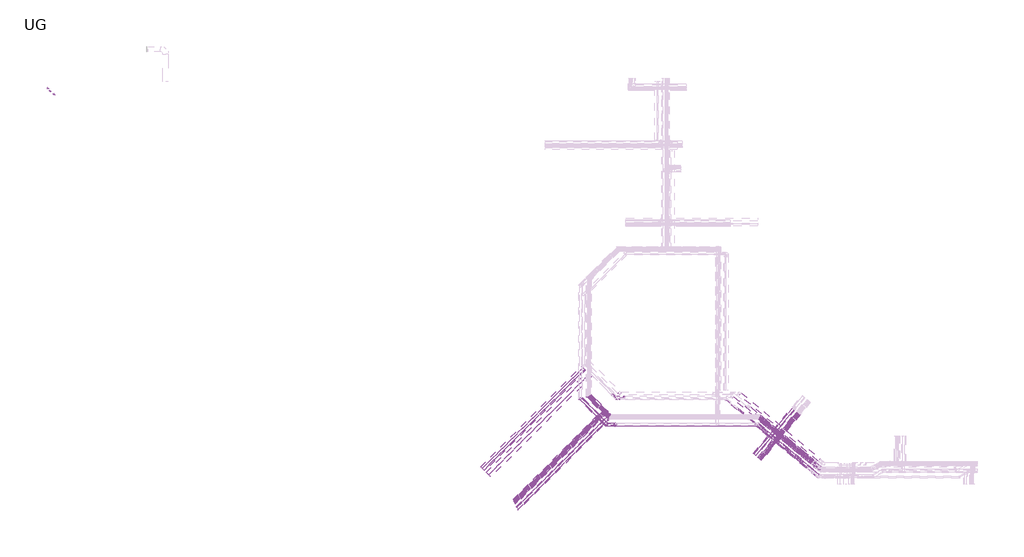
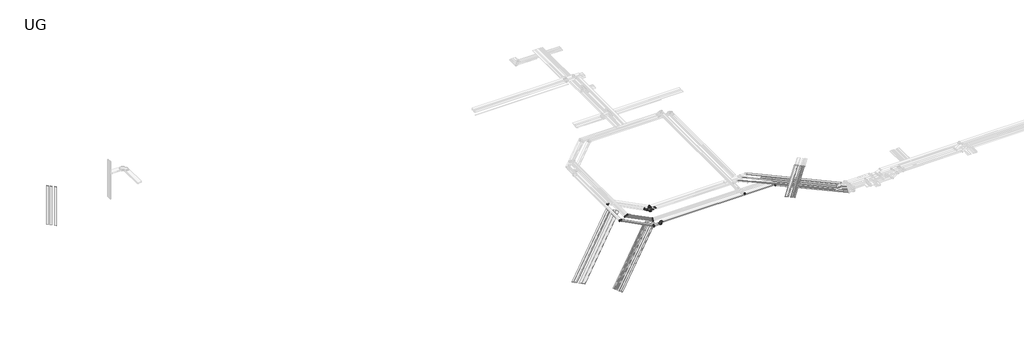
# One storey, part 1 of 14: 63 cable carrier segments, 40 cable carrier fittings.
"""IFC4 building model written with IfcOpenShell, lengths in millimetres."""

from ifc_helpers import new_model, si_unit, frame, origin, place, context, project, spatial, polyline, outline, extrude, transform, mapped, element, save
from components import cable_tray_horizontal_bend_a37de1d9, cable_tray_horizontal_bend_59db2054, cable_tray_horizontal_bend_460281a5, cable_tray_horizontal_bend_41a28480, cable_tray_horizontal_bend_607c76ad, cable_tray_horizontal_bend_0aeb7664, cable_tray_horizontal_bend_203efda3, cable_tray_horizontal_bend_d2072277, cable_tray_reducer_f8bedf25, cable_tray_reducer_d5418ca3, cable_tray_vertical_inside_bend_327bc21f, cable_tray_vertical_inside_bend_f6baaffd, cable_tray_vertical_inside_bend_ed059ede, cable_tray_vertical_outside_bend_b526f006, cable_tray_vertical_outside_bend_0dbe7b70, cable_tray_vertical_outside_bend_dc64f624, cable_tray_vertical_outside_bend_59e16c32, cable_tray_vertical_outside_bend_6efb6392, cable_tray_vertical_outside_bend_ccf5aebb

model = new_model("IFC4")

# Units and contexts
model_context = context("Model", 3, world=origin())
ifc_project = project(units=[si_unit("LENGTHUNIT", "METRE", prefix="MILLI")], contexts=[model_context])

# Site, building, storey
site = spatial("IfcSite", under=ifc_project)
building = spatial("IfcBuilding", under=site)
storey = spatial("IfcBuildingStorey", under=building, Name="UG", Elevation=7925.0)

# Cable carrier fittings
placement = place(None, origin())
cable_tray_horizontal_bend_shape = cable_tray_horizontal_bend_a37de1d9(model_context)
element("IfcCableCarrierFitting", 1, ObjectType="Cable Tray Horizontal Bend : ELEC_ELV_TKG_N2402", at=placement, inside=storey, context=model_context, shape_type="MappedRepresentation", body=[
    mapped(cable_tray_horizontal_bend_shape, transform((91092.580412, 32544.1008473, 12349.9999951), x_axis=(0.7071067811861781, -0.707106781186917, 0.0), y_axis=(0.707106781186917, 0.7071067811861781, 0.0), z_axis=(0.0, 0.0, 1.0))),
])
element("IfcCableCarrierFitting", 2, ObjectType="Cable Tray Horizontal Bend : ELEC_ELV_TKG_N2402", at=placement, inside=storey, context=model_context, shape_type="MappedRepresentation", body=[
    mapped(cable_tray_horizontal_bend_shape, transform((86156.0954238, 37480.5858354, 12349.9999951), x_axis=(0.0, -1.0, 0.0), y_axis=(1.0, 0.0, 0.0), z_axis=(0.0, 0.0, 1.0))),
])
element("IfcCableCarrierFitting", 3, ObjectType="Cable Tray Horizontal Bend : ELEC_ELV_TKG_N2402", at=placement, inside=storey, context=model_context, shape_type="MappedRepresentation", body=[
    mapped(cable_tray_horizontal_bend_shape, transform((87518.5851935, 37850.5076866, 12674.9999995), x_axis=(0.0, -1.0, 0.0), y_axis=(1.0, 0.0, 0.0), z_axis=(0.0, 0.0, 1.0))),
])
element("IfcCableCarrierFitting", 4, ObjectType="Cable Tray Horizontal Bend : ELEC_ELV_TKG_N2402", at=placement, inside=storey, context=model_context, shape_type="MappedRepresentation", body=[
    mapped(cable_tray_horizontal_bend_shape, transform((87218.5851935, 37726.2436179, 12674.9999995), x_axis=(0.0, -1.0, 0.0), y_axis=(1.0, 0.0, 0.0), z_axis=(0.0, 0.0, 1.0))),
])
element("IfcCableCarrierFitting", 5, ObjectType="Cable Tray Horizontal Bend : ELEC_ELV_TKG_N2402", at=placement, inside=storey, context=model_context, shape_type="MappedRepresentation", body=[
    mapped(cable_tray_horizontal_bend_shape, transform((87368.5851935, 37788.3756523, 12674.9999995), x_axis=(0.0, -1.0, 0.0), y_axis=(1.0, 0.0, 0.0), z_axis=(0.0, 0.0, 1.0))),
])
element("IfcCableCarrierFitting", 6, ObjectType="Cable Tray Horizontal Bend : ELEC_ELV_TKG_N2402", at=placement, inside=storey, context=model_context, shape_type="MappedRepresentation", body=[
    mapped(cable_tray_horizontal_bend_shape, transform((91475.7279563, 33469.1008552, 12674.9999995), x_axis=(0.7071067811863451, -0.70710678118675, 0.0), y_axis=(0.70710678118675, 0.7071067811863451, 0.0), z_axis=(0.0, 0.0, 1.0))),
])
element("IfcCableCarrierFitting", 7, ObjectType="Cable Tray Horizontal Bend : ELEC_ELV_TKG_N2402", at=placement, inside=storey, context=model_context, shape_type="MappedRepresentation", body=[
    mapped(cable_tray_horizontal_bend_shape, transform((91537.8599906, 33619.1008552, 12674.9999995), x_axis=(0.707106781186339, -0.7071067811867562, 0.0), y_axis=(0.7071067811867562, 0.707106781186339, 0.0), z_axis=(0.0, 0.0, 1.0))),
])
element("IfcCableCarrierFitting", 8, ObjectType="Cable Tray Horizontal Bend : ELEC_ELV_TKG_N2402", at=placement, inside=storey, context=model_context, shape_type="MappedRepresentation", body=[
    mapped(cable_tray_horizontal_bend_shape, transform((91599.992025, 33769.1008552, 12674.9999995), x_axis=(0.7071067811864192, -0.7071067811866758, 0.0), y_axis=(0.7071067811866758, 0.7071067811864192, 0.0), z_axis=(0.0, 0.0, 1.0))),
])
cable_tray_horizontal_bend_2_shape = cable_tray_horizontal_bend_59db2054(model_context)
element("IfcCableCarrierFitting", 9, ObjectType="Cable Tray Horizontal Bend : ELEC_ELV_TKG_N2402", at=placement, inside=storey, context=model_context, shape_type="MappedRepresentation", body=[
    mapped(cable_tray_horizontal_bend_2_shape, transform((85531.0954284, 37221.7023609, 12374.9999997), x_axis=(0.0, -1.0, 0.0), y_axis=(1.0, 0.0, 0.0), z_axis=(0.0, 0.0, 1.0))),
])
element("IfcCableCarrierFitting", 10, ObjectType="Cable Tray Horizontal Bend : ELEC_ELV_TKG_N2402", at=placement, inside=storey, context=model_context, shape_type="MappedRepresentation", body=[
    mapped(cable_tray_horizontal_bend_2_shape, transform((90833.6969374, 31919.1008519, 12374.9999997), x_axis=(0.707106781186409, -0.7071067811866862, 0.0), y_axis=(0.7071067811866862, 0.707106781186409, 0.0), z_axis=(0.0, 0.0, 1.0))),
])
element("IfcCableCarrierFitting", 11, ObjectType="Cable Tray Horizontal Bend : ELEC_ELV_TKG_N2402", at=placement, inside=storey, context=model_context, shape_type="MappedRepresentation", body=[
    mapped(cable_tray_horizontal_bend_2_shape, transform((91672.4793984, 33944.1008552, 12699.9999995), x_axis=(0.707106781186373, -0.707106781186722, 0.0), y_axis=(0.707106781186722, 0.707106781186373, 0.0), z_axis=(0.0, 0.0, 1.0))),
])
element("IfcCableCarrierFitting", 12, ObjectType="Cable Tray Horizontal Bend : ELEC_ELV_TKG_N2402", at=placement, inside=storey, context=model_context, shape_type="MappedRepresentation", body=[
    mapped(cable_tray_horizontal_bend_2_shape, transform((87893.5851935, 38005.8377725, 12699.9999995), x_axis=(0.0, -1.0, 0.0), y_axis=(1.0, 0.0, 0.0), z_axis=(0.0, 0.0, 1.0))),
])
element("IfcCableCarrierFitting", 13, ObjectType="Cable Tray Horizontal Bend : ELEC_ELV_TKG_N2402", at=placement, inside=storey, context=model_context, shape_type="MappedRepresentation", body=[
    mapped(cable_tray_horizontal_bend_2_shape, transform((87693.5851935, 37922.99506, 12699.9999995), x_axis=(0.0, -1.0, 0.0), y_axis=(1.0, 0.0, 0.0), z_axis=(0.0, 0.0, 1.0))),
])
element("IfcCableCarrierFitting", 14, ObjectType="Cable Tray Horizontal Bend : ELEC_ELV_TKG_N2402", at=placement, inside=storey, context=model_context, shape_type="MappedRepresentation", body=[
    mapped(cable_tray_horizontal_bend_2_shape, transform((91755.3221109, 34144.1008552, 12699.9999995), x_axis=(0.707106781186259, -0.7071067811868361, 0.0), y_axis=(0.7071067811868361, 0.707106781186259, 0.0), z_axis=(0.0, 0.0, 1.0))),
])
cable_tray_horizontal_bend_3_shape = cable_tray_horizontal_bend_460281a5(model_context)
element("IfcCableCarrierFitting", 15, ObjectType="Cable Tray Horizontal Bend : ELEC_ELV_TKG_N2402", at=placement, inside=storey, context=model_context, shape_type="MappedRepresentation", body=[
    mapped(cable_tray_horizontal_bend_3_shape, transform((90968.3163386, 32244.1008519, 12374.9999951), x_axis=(0.7071067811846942, -0.7071067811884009, 0.0), y_axis=(0.7071067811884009, 0.7071067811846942, 0.0), z_axis=(0.0, 0.0, 1.0))),
])
element("IfcCableCarrierFitting", 16, ObjectType="Cable Tray Horizontal Bend : ELEC_ELV_TKG_N2402", at=placement, inside=storey, context=model_context, shape_type="MappedRepresentation", body=[
    mapped(cable_tray_horizontal_bend_3_shape, transform((85856.0954238, 37356.3217667, 12374.9999951), x_axis=(0.0, -1.0, 0.0), y_axis=(1.0, 0.0, 0.0), z_axis=(0.0, 0.0, 1.0))),
])
cable_tray_horizontal_bend_4_shape = cable_tray_horizontal_bend_41a28480(model_context)
element("IfcCableCarrierFitting", 17, ObjectType="Cable Tray Horizontal Bend : ELEC_SUB_CT_N2402", at=placement, inside=storey, context=model_context, shape_type="MappedRepresentation", body=[
    mapped(cable_tray_horizontal_bend_4_shape, transform((86468.5851906, 43752.6744262, 12425.0000003), x_axis=(0.0, -1.0, 0.0), y_axis=(1.0, 0.0, 0.0), z_axis=(0.0, 0.0, 1.0))),
])
element("IfcCableCarrierFitting", 18, ObjectType="Cable Tray Horizontal Bend : ELEC_SUB_CT_N2402", at=placement, inside=storey, context=model_context, shape_type="MappedRepresentation", body=[
    mapped(cable_tray_horizontal_bend_4_shape, transform((93021.6378231, 37199.6217937, 12425.0000001), x_axis=(0.7071067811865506, -0.7071067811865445, 0.0), y_axis=(0.7071067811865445, 0.7071067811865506, 0.0), z_axis=(0.0, 0.0, 1.0))),
])
element("IfcCableCarrierFitting", 19, ObjectType="Cable Tray Horizontal Bend : ELEC_SUB_CT_N2402", at=placement, inside=storey, context=model_context, shape_type="MappedRepresentation", body=[
    mapped(cable_tray_horizontal_bend_4_shape, transform((92571.6378231, 37649.6217937, 12562.5), x_axis=(0.707106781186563, -0.7071067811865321, 0.0), y_axis=(0.7071067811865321, 0.707106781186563, 0.0), z_axis=(0.0, 0.0, 1.0))),
])
cable_tray_horizontal_bend_5_shape = cable_tray_horizontal_bend_607c76ad(model_context)
element("IfcCableCarrierFitting", 20, ObjectType="Cable Tray Horizontal Bend : ELEC_SUB_CT_N2402", at=placement, inside=storey, context=model_context, shape_type="MappedRepresentation", body=[
    mapped(cable_tray_horizontal_bend_5_shape, transform((93616.6125699, 37099.6217937, 12650.0), x_axis=(0.7071067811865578, -0.7071067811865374, 0.0), y_axis=(0.7071067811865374, 0.7071067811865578, 0.0), z_axis=(0.0, 0.0, 1.0))),
])
cable_tray_horizontal_bend_6_shape = cable_tray_horizontal_bend_0aeb7664(model_context)
element("IfcCableCarrierFitting", 21, ObjectType="Cable Tray Horizontal Bend : ELEC_ELV_CT_N2402", at=placement, inside=storey, context=model_context, shape_type="MappedRepresentation", body=[
    mapped(cable_tray_horizontal_bend_6_shape, transform((87043.5851935, 37653.7562445, 12649.9999995), x_axis=(0.0, -1.0, 0.0), y_axis=(1.0, 0.0, 0.0), z_axis=(0.0, 0.0, 1.0))),
])
element("IfcCableCarrierFitting", 22, ObjectType="Cable Tray Horizontal Bend : ELEC_ELV_CT_N2402", at=placement, inside=storey, context=model_context, shape_type="MappedRepresentation", body=[
    mapped(cable_tray_horizontal_bend_6_shape, transform((91403.2405828, 33294.1008552, 12649.9999995), x_axis=(0.7071067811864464, -0.7071067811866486, 0.0), y_axis=(0.7071067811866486, 0.7071067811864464, 0.0), z_axis=(0.0, 0.0, 1.0))),
])
cable_tray_horizontal_bend_7_shape = cable_tray_horizontal_bend_203efda3(model_context)
element("IfcCableCarrierFitting", 23, ObjectType="Cable Tray Horizontal Bend : ELEC_ELV_TKG_N2402", at=placement, inside=storey, context=model_context, shape_type="MappedRepresentation", body=[
    mapped(cable_tray_horizontal_bend_7_shape, transform((120257.1636121, 31919.1008519, 12699.9999954), x_axis=(-0.7660444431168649, 0.6427876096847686, 2.3482065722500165e-06), y_axis=(-0.6427876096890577, -0.7660444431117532, -2.7984836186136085e-06), z_axis=(0.0, -3.653160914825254e-06, 0.9999999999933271))),
])
cable_tray_horizontal_bend_8_shape = cable_tray_horizontal_bend_d2072277(model_context)
element("IfcCableCarrierFitting", 24, ObjectType="Cable Tray Horizontal Bend : ELEC_SUB_CT_N2402", at=placement, inside=storey, context=model_context, shape_type="MappedRepresentation", body=[
    mapped(cable_tray_horizontal_bend_8_shape, transform((93497.605213, 38350.0000005, 12649.9999997), x_axis=(0.7071067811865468, -0.7071067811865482, 0.0), y_axis=(0.7071067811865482, 0.7071067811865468, 0.0), z_axis=(0.0, 0.0, 1.0))),
])
element("IfcCableCarrierFitting", 25, ObjectType="Cable Tray Horizontal Bend : ELEC_SUB_CT_N2402", at=placement, inside=storey, context=model_context, shape_type="MappedRepresentation", body=[
    mapped(cable_tray_horizontal_bend_8_shape, transform((93497.6052131, 38350.0000005, 12424.9999994), x_axis=(0.7071067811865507, -0.7071067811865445, 0.0), y_axis=(0.7071067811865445, 0.7071067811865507, 0.0), z_axis=(0.0, 0.0, 1.0))),
])
cable_tray_reducer_shape = cable_tray_reducer_f8bedf25(model_context)
element("IfcCableCarrierFitting", 26, ObjectType="Cable Tray Reducer : ELEC_SUB_CT_N2402", at=placement, inside=storey, context=model_context, shape_type="MappedRepresentation", body=[
    mapped(cable_tray_reducer_shape, transform((92454.4805356, 37766.7790812, 12562.5), x_axis=(-0.7071067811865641, 0.707106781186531, 0.0), y_axis=(-0.707106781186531, -0.7071067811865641, 0.0), z_axis=(0.0, 0.0, 1.0))),
])
cable_tray_reducer_2_shape = cable_tray_reducer_d5418ca3(model_context)
element("IfcCableCarrierFitting", 27, ObjectType="Cable Tray Reducer : ELEC_ELV_TKG_N2402", at=placement, inside=storey, context=model_context, shape_type="MappedRepresentation", body=[
    mapped(cable_tray_reducer_2_shape, transform((120298.9862185, 31884.0075183, 12699.9998672), x_axis=(0.7660444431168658, -0.6427876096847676, -2.3482065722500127e-06), y_axis=(0.6427876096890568, 0.7660444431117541, 2.798483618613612e-06), z_axis=(0.0, -3.6531609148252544e-06, 0.9999999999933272))),
])
cable_tray_vertical_inside_bend_shape = cable_tray_vertical_inside_bend_327bc21f(model_context)
element("IfcCableCarrierFitting", 28, ObjectType="Cable Tray Vertical Inside Bend : ELEC_SUB_CT_N2402", at=placement, inside=storey, context=model_context, shape_type="MappedRepresentation", body=[
    mapped(cable_tray_vertical_inside_bend_shape, transform((94547.3233079, 37649.6217937, 12425.0000001), x_axis=(-1.0, 0.0, 0.0), y_axis=(0.0, 0.0, 1.0), z_axis=(0.0, 1.0, 0.0))),
])
cable_tray_vertical_inside_bend_2_shape = cable_tray_vertical_inside_bend_f6baaffd(model_context)
element("IfcCableCarrierFitting", 29, ObjectType="Cable Tray Vertical Inside Bend : ELEC_SUB_CT_N2402", at=placement, inside=storey, context=model_context, shape_type="MappedRepresentation", body=[
    mapped(cable_tray_vertical_inside_bend_2_shape, transform((92208.1207729, 38013.1388439, 12562.0000001), x_axis=(0.49999999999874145, -0.5000000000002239, -0.7071067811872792), y_axis=(0.5000000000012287, -0.4999999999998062, 0.7071067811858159), z_axis=(-0.7071067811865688, -0.7071067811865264, 1.4525047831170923e-12))),
])
cable_tray_vertical_inside_bend_3_shape = cable_tray_vertical_inside_bend_ed059ede(model_context)
element("IfcCableCarrierFitting", 30, ObjectType="Cable Tray Vertical Inside Bend : ELEC_SUB_CT_N2402", at=placement, inside=storey, context=model_context, shape_type="MappedRepresentation", body=[
    mapped(cable_tray_vertical_inside_bend_3_shape, transform((93467.1265061, 37249.1078575, 12650.0), x_axis=(-0.7071067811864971, 0.7071067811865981, 0.0), y_axis=(0.0, 0.0, 1.0), z_axis=(0.7071067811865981, 0.7071067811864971, 0.0))),
])
cable_tray_vertical_outside_bend_shape = cable_tray_vertical_outside_bend_b526f006(model_context)
element("IfcCableCarrierFitting", 31, ObjectType="Cable Tray Vertical Outside Bend : ELEC_ELV_TKG_N2402", at=placement, inside=storey, context=model_context, shape_type="MappedRepresentation", body=[
    mapped(cable_tray_vertical_outside_bend_shape, transform((92599.5742386, 31919.1008519, 12699.9999954), x_axis=(-1.0, 0.0, 0.0), y_axis=(0.0, 0.0, -1.0), z_axis=(0.0, -1.0, 0.0))),
])
element("IfcCableCarrierFitting", 32, ObjectType="Cable Tray Vertical Outside Bend : ELEC_ELV_TKG_N2402", at=placement, inside=storey, context=model_context, shape_type="MappedRepresentation", body=[
    mapped(cable_tray_vertical_outside_bend_shape, transform((92599.5742386, 31919.1008519, 12374.9999997), x_axis=(0.0, 0.0, -1.0), y_axis=(-1.0, 0.0, 0.0), z_axis=(0.0, 1.0, 0.0))),
])
element("IfcCableCarrierFitting", 33, ObjectType="Cable Tray Vertical Outside Bend : ELEC_ELV_TKG_N2402", at=placement, inside=storey, context=model_context, shape_type="MappedRepresentation", body=[
    mapped(cable_tray_vertical_outside_bend_shape, transform((112947.3232791, 31919.1008519, 13050.0), x_axis=(0.0, -1.0, 0.0), y_axis=(0.0, 0.0, -1.0), z_axis=(1.0, 0.0, 0.0))),
])
cable_tray_vertical_outside_bend_2_shape = cable_tray_vertical_outside_bend_0dbe7b70(model_context)
element("IfcCableCarrierFitting", 34, ObjectType="Cable Tray Vertical Outside Bend : ELEC_ELV_TKG_N2402", at=placement, inside=storey, context=model_context, shape_type="MappedRepresentation", body=[
    mapped(cable_tray_vertical_outside_bend_2_shape, transform((92668.3163386, 32544.1008473, 12349.9999951), x_axis=(0.0, 0.0, -1.0), y_axis=(-1.0, 0.0, 0.0), z_axis=(0.0, 1.0, 0.0))),
])
element("IfcCableCarrierFitting", 35, ObjectType="Cable Tray Vertical Outside Bend : ELEC_ELV_TKG_N2402", at=placement, inside=storey, context=model_context, shape_type="MappedRepresentation", body=[
    mapped(cable_tray_vertical_outside_bend_2_shape, transform((92668.3163386, 32544.1008473, 12674.9999908), x_axis=(0.0, 0.0, 1.0), y_axis=(1.0, 0.0, 0.0), z_axis=(0.0, 1.0, 0.0))),
])
cable_tray_vertical_outside_bend_3_shape = cable_tray_vertical_outside_bend_dc64f624(model_context)
element("IfcCableCarrierFitting", 36, ObjectType="Cable Tray Vertical Outside Bend : ELEC_SUB_CT_N2402", at=placement, inside=storey, context=model_context, shape_type="MappedRepresentation", body=[
    mapped(cable_tray_vertical_outside_bend_3_shape, transform((94309.166322, 37649.6217937, 12562.5), x_axis=(-0.8660254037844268, 0.0, 0.5000000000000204), y_axis=(-0.5000000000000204, 0.0, -0.8660254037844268), z_axis=(0.0, -1.0, 0.0))),
])
cable_tray_vertical_outside_bend_4_shape = cable_tray_vertical_outside_bend_59e16c32(model_context)
element("IfcCableCarrierFitting", 37, ObjectType="Cable Tray Vertical Outside Bend : ELEC_SUB_CT_N2402", at=placement, inside=storey, context=model_context, shape_type="MappedRepresentation", body=[
    mapped(cable_tray_vertical_outside_bend_4_shape, transform((92110.5400372, 38110.7195796, 12700.0), x_axis=(-0.4999999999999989, 0.4999999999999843, 0.7071067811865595), y_axis=(-0.5000000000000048, 0.5000000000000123, -0.7071067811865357), z_axis=(-0.7071067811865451, -0.7071067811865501, 0.0))),
])
cable_tray_vertical_outside_bend_5_shape = cable_tray_vertical_outside_bend_6efb6392(model_context)
element("IfcCableCarrierFitting", 38, ObjectType="Cable Tray Vertical Outside Bend : ELEC_SUB_CT_N2402", at=placement, inside=storey, context=model_context, shape_type="MappedRepresentation", body=[
    mapped(cable_tray_vertical_outside_bend_5_shape, transform((93381.7711643, 37334.4631993, 12700.0), x_axis=(-0.6532814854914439, 0.6532814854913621, 0.38268342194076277), y_axis=(-0.2705980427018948, 0.2705980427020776, -0.9238795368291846), z_axis=(-0.7071067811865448, -0.7071067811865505, 0.0))),
])
cable_tray_vertical_outside_bend_6_shape = cable_tray_vertical_outside_bend_ccf5aebb(model_context)
element("IfcCableCarrierFitting", 39, ObjectType="Cable Tray Vertical Outside Bend : ELEC_ELV_TKG_N2402", at=placement, inside=storey, context=model_context, shape_type="MappedRepresentation", body=[
    mapped(cable_tray_vertical_outside_bend_6_shape, transform((92394.1023507, 32244.1008519, 12374.9999951), x_axis=(-0.8660254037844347, 0.0, -0.500000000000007), y_axis=(-0.500000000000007, 0.0, 0.8660254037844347), z_axis=(0.0, 1.0, 0.0))),
])
element("IfcCableCarrierFitting", 40, ObjectType="Cable Tray Vertical Outside Bend : ELEC_ELV_TKG_N2402", at=placement, inside=storey, context=model_context, shape_type="MappedRepresentation", body=[
    mapped(cable_tray_vertical_outside_bend_6_shape, transform((92957.0188557, 32244.1008519, 12699.9999908), x_axis=(0.8660254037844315, 0.0, 0.5000000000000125), y_axis=(0.5000000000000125, 0.0, -0.8660254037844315), z_axis=(0.0, 1.0, 0.0))),
])

# Cable carrier segments
element("IfcCableCarrierSegment", 41, ObjectType="ELEC_ELV_TKG_N2402", at=placement, inside=storey, context=model_context, shape_type="SweptSolid", body=[
    extrude(outline(polyline([(0.0, -150.0000001), (0.0, 0.0), (15622.2693665, 0.0), (15622.2693665, -150.0000001), (0.0, -150.0000001)])), frame((120385.497287, 31909.3216594, 12574.9997402), z_axis=(1.792544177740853e-06, -1.504123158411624e-06, 0.9999999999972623), x_axis=(0.7660444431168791, -0.6427876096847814, -2.3400002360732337e-06)), (0.0, 0.0, 1.0), 150.0),
])
element("IfcCableCarrierSegment", 42, ObjectType="ELEC_ELV_TKG_N2402", at=placement, inside=storey, context=model_context, shape_type="SweptSolid", body=[
    extrude(outline(polyline([(132481.7844923, 22346.764807), (132224.6694484, 22040.3470297), (120358.4233665, 31997.3097405), (120615.5384104, 32303.7275178), (132481.7844923, 22346.764807)])), frame((0.0, 0.0, 12574.9999959), z_axis=(0.0, 0.0, 1.0), x_axis=(1.0, 0.0, 0.0)), (0.0, 0.0, 1.0), 150.0),
])
element("IfcCableCarrierSegment", 43, ObjectType="ELEC_ELV_TKG_N2402", at=placement, inside=storey, context=model_context, shape_type="SweptSolid", body=[
    extrude(outline(polyline([(0.0, -99.9999999), (0.0, 0.0), (15708.9624512, 0.0), (15708.9624513, -99.9999999), (0.0, -99.9999999)])), frame((132513.6293286, 22384.8766524, 12574.9961957), z_axis=(1.827762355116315e-07, -1.5336747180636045e-07, 0.9999999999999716), x_axis=(-0.7660444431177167, 0.6427876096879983, 2.3859743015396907e-07)), (0.0, 0.0, 1.0), 100.0),
])
element("IfcCableCarrierSegment", 44, ObjectType="ELEC_ELV_TKG_N2402", at=placement, inside=storey, context=model_context, shape_type="SweptSolid", body=[
    extrude(outline(polyline([(92017.8202509, 33987.6687364), (92123.8862681, 33881.6027193), (73712.2700126, 15469.9864638), (73606.2039954, 15576.0524809), (92017.8202509, 33987.6687364)])), frame((0.0, 0.0, 11399.9999835), z_axis=(0.0, 0.0, 1.0), x_axis=(1.0, 0.0, 0.0)), (0.0, 0.0, 1.0), 150.0),
])
element("IfcCableCarrierSegment", 45, ObjectType="ELEC_ELV_TKG_N2402", at=placement, inside=storey, context=model_context, shape_type="SweptSolid", body=[
    extrude(outline(polyline([(73718.8340054, 15759.3931625), (73435.9912929, 16042.235875), (91699.6222026, 34305.8667847), (91982.4649151, 34023.0240722), (73718.8340054, 15759.3931625)])), frame((0.0, 0.0, 11399.9999789), z_axis=(0.0, 0.0, 1.0), x_axis=(1.0, 0.0, 0.0)), (0.0, 0.0, 1.0), 150.0),
])
element("IfcCableCarrierSegment", 46, ObjectType="ELEC_ELV_TKG_N2402", at=placement, inside=storey, context=model_context, shape_type="SweptSolid", body=[
    extrude(outline(polyline([(91593.5561855, 34411.9328019), (91664.2668636, 34341.2221238), (73400.6359538, 16077.591214), (73329.9252757, 16148.3018922), (91593.5561855, 34411.9328019)])), frame((0.0, 0.0, 11399.9999789), z_axis=(0.0, 0.0, 1.0), x_axis=(1.0, 0.0, 0.0)), (0.0, 0.0, 1.0), 100.0),
])
element("IfcCableCarrierSegment", 47, ObjectType="ELEC_ELV_TKG_N2402", at=placement, inside=storey, context=model_context, shape_type="SweptSolid", body=[
    extrude(outline(polyline([(91027.8707737, 34977.6182137), (91133.9367909, 34871.5521965), (73095.5009753, 16833.1163809), (72989.4349581, 16939.182398), (91027.8707737, 34977.6182137)])), frame((0.0, 0.0, 11399.9999835), z_axis=(0.0, 0.0, 1.0), x_axis=(1.0, 0.0, 0.0)), (0.0, 0.0, 1.0), 150.0),
])
element("IfcCableCarrierSegment", 48, ObjectType="ELEC_ELV_TKG_N2402", at=placement, inside=storey, context=model_context, shape_type="SweptSolid", body=[
    extrude(outline(polyline([(90709.6727222, 35295.8162652), (90780.3834003, 35225.1055871), (72851.3280585, 17296.0502453), (72780.6173804, 17366.7609234), (90709.6727222, 35295.8162652)])), frame((0.0, 0.0, 11399.9999835), z_axis=(0.0, 0.0, 1.0), x_axis=(1.0, 0.0, 0.0)), (0.0, 0.0, 1.0), 100.0),
])
element("IfcCableCarrierSegment", 49, ObjectType="ELEC_ELV_TKG_N2402", at=placement, inside=storey, context=model_context, shape_type="SweptSolid", body=[
    extrude(outline(polyline([(90815.7387394, 35189.750248), (90886.4494175, 35119.0395699), (72918.7892026, 17151.379355), (72848.0785245, 17222.0900331), (90815.7387394, 35189.750248)])), frame((0.0, 0.0, 11399.9999835), z_axis=(0.0, 0.0, 1.0), x_axis=(1.0, 0.0, 0.0)), (0.0, 0.0, 1.0), 100.0),
])
element("IfcCableCarrierSegment", 50, ObjectType="ELEC_ELV_TKG_N2402", at=placement, inside=storey, context=model_context, shape_type="SweptSolid", body=[
    extrude(outline(polyline([(73185.4491673, 16640.2218605), (73079.3831502, 16746.2878776), (91169.2921299, 34836.1968574), (91275.3581471, 34730.1308402), (73185.4491673, 16640.2218605)])), frame((0.0, 0.0, 11399.9999835), z_axis=(0.0, 0.0, 1.0), x_axis=(1.0, 0.0, 0.0)), (0.0, 0.0, 1.0), 150.0),
])
element("IfcCableCarrierSegment", 51, ObjectType="ELEC_ELV_TKG_N2402", at=placement, inside=storey, context=model_context, shape_type="SweptSolid", body=[
    extrude(outline(polyline([(72986.2503466, 17006.7084647), (72915.5396685, 17077.4191428), (90921.8047565, 35083.6842308), (90992.5154347, 35012.9735527), (72986.2503466, 17006.7084647)])), frame((0.0, 0.0, 11399.9999835), z_axis=(0.0, 0.0, 1.0), x_axis=(1.0, 0.0, 0.0)), (0.0, 0.0, 1.0), 100.0),
])
element("IfcCableCarrierSegment", 52, ObjectType="ELEC_ELV_CT_N2402", at=placement, inside=storey, context=model_context, shape_type="SweptSolid", body=[
    extrude(outline(polyline([(90164.7799131, 35033.7661727), (90270.8459303, 34927.7001556), (72824.2367701, 17481.0909954), (72718.170753, 17587.1570126), (90164.7799131, 35033.7661727)])), frame((0.0, 0.0, 11399.9999835), z_axis=(0.0, 0.0, 1.0), x_axis=(1.0, 0.0, 0.0)), (0.0, 0.0, 1.0), 50.0),
])
element("IfcCableCarrierSegment", 53, ObjectType="ELEC_ELV_TKG_N2402", at=placement, inside=storey, context=model_context, shape_type="SweptSolid", body=[
    extrude(outline(polyline([(90842.7959631, 32016.0678433), (90736.729946, 31910.0018261), (85521.9964026, 37124.7353695), (85628.0624198, 37230.8013866), (90842.7959631, 32016.0678433)])), frame((0.0, 0.0, 12299.9999997), z_axis=(0.0, 0.0, 1.0), x_axis=(1.0, 0.0, 0.0)), (0.0, 0.0, 1.0), 150.0),
])
element("IfcCableCarrierSegment", 54, ObjectType="ELEC_ELV_TKG_N2402", at=placement, inside=storey, context=model_context, shape_type="SweptSolid", body=[
    extrude(outline(polyline([(90992.5804074, 32502.6794956), (90709.7376949, 32219.8367832), (85831.8313551, 37097.743123), (86114.6740676, 37380.5858355), (90992.5804074, 32502.6794956)])), frame((0.0, 0.0, 12299.9999951), z_axis=(0.0, 0.0, 1.0), x_axis=(1.0, 0.0, 0.0)), (0.0, 0.0, 1.0), 150.0),
])
element("IfcCableCarrierSegment", 55, ObjectType="ELEC_ELV_TKG_N2402", at=placement, inside=storey, context=model_context, shape_type="SweptSolid", body=[
    extrude(outline(polyline([(91098.6464291, 32608.7455082), (91027.935751, 32538.0348301), (86150.0294066, 37415.9411745), (86220.7400847, 37486.6518526), (91098.6464291, 32608.7455082)])), frame((0.0, 0.0, 12299.9999951), z_axis=(0.0, 0.0, 1.0), x_axis=(1.0, 0.0, 0.0)), (0.0, 0.0, 1.0), 100.0),
])
element("IfcCableCarrierSegment", 56, ObjectType="ELEC_SUB_CT_N2402", at=placement, inside=storey, context=model_context, shape_type="SweptSolid", body=[
    extrude(outline(polyline([(87591.9451339, 42063.6290579), (88016.2092027, 41639.3649892), (68341.0859895, 21964.2417761), (67916.8219208, 22388.5058448), (87591.9451339, 42063.6290579)])), frame((0.0, 0.0, 11400.0001455), z_axis=(0.0, 0.0, 1.0), x_axis=(1.0, 0.0, 0.0)), (0.0, 0.0, 1.0), 50.0),
])
element("IfcCableCarrierSegment", 57, ObjectType="ELEC_SUB_CT_N2402", at=placement, inside=storey, context=model_context, shape_type="SweptSolid", body=[
    extrude(outline(polyline([(87132.3257262, 42523.2484657), (87556.5897949, 42098.984397), (67881.4665817, 22423.8611838), (67457.202513, 22848.1252525), (87132.3257262, 42523.2484657)])), frame((0.0, 0.0, 11400.0001455), z_axis=(0.0, 0.0, 1.0), x_axis=(1.0, 0.0, 0.0)), (0.0, 0.0, 1.0), 50.0),
])
element("IfcCableCarrierSegment", 58, ObjectType="ELEC_SUB_CT_N2402", at=placement, inside=storey, context=model_context, shape_type="SweptSolid", body=[
    extrude(outline(polyline([(86672.7063184, 42982.8678734), (86814.1276746, 42841.4465172), (67139.0044615, 23166.3233041), (66997.5831053, 23307.7446603), (86672.7063184, 42982.8678734)])), frame((0.0, 0.0, 11400.0001567), z_axis=(0.0, 0.0, 1.0), x_axis=(1.0, 0.0, 0.0)), (0.0, 0.0, 1.0), 50.0),
])
element("IfcCableCarrierSegment", 59, ObjectType="ELEC_SUB_CT_N2402", at=placement, inside=storey, context=model_context, shape_type="SweptSolid", body=[
    extrude(outline(polyline([(86354.5082671, 43301.0659247), (86637.3509796, 43018.2232122), (66962.2277665, 23343.0999991), (66679.385054, 23625.9427116), (86354.5082671, 43301.0659247)])), frame((0.0, 0.0, 11400.0001675), z_axis=(0.0, 0.0, 1.0), x_axis=(1.0, 0.0, 0.0)), (0.0, 0.0, 1.0), 50.0),
])
element("IfcCableCarrierSegment", 60, ObjectType="ELEC_SUB_CT_N2402", at=placement, inside=storey, context=model_context, shape_type="SweptSolid", body=[
    extrude(outline(polyline([(86036.3102156, 43619.2639763), (86319.1529281, 43336.4212638), (66644.0297149, 23661.2980506), (66361.1870025, 23944.1407631), (86036.3102156, 43619.2639763)])), frame((0.0, 0.0, 11400.0001684), z_axis=(0.0, 0.0, 1.0), x_axis=(1.0, 0.0, 0.0)), (0.0, 0.0, 1.0), 50.0),
])
element("IfcCableCarrierSegment", 61, ObjectType="ELEC_SUB_CT_N2402", at=placement, inside=storey, context=model_context, shape_type="SweptSolid", body=[
    extrude(outline(polyline([(132669.345707, 25518.1708615), (132283.6731412, 25058.5441957), (116884.7042254, 37979.8133334), (117270.3767912, 38439.4399993), (132669.345707, 25518.1708615)])), frame((0.0, 0.0, 12825.0), z_axis=(0.0, 0.0, 1.0), x_axis=(1.0, 0.0, 0.0)), (0.0, 0.0, 1.0), 50.0),
])
element("IfcCableCarrierSegment", 62, ObjectType="ELEC_ELV_TKG_N2402", at=placement, inside=storey, context=model_context, shape_type="SweptSolid", body=[
    extrude(outline(polyline([(-18108.8490627, 97896.7170529), (-18214.9150799, 97790.6510357), (-18497.7577923, 98073.4937482), (-18391.6917752, 98179.5597653), (-18108.8490627, 97896.7170529)])), frame((0.0, 0.0, 11045.0), z_axis=(0.0, 0.0, 1.0), x_axis=(1.0, 0.0, 0.0)), (0.0, 0.0, 1.0), 9855.0),
])
element("IfcCableCarrierSegment", 63, ObjectType="ELEC_ELV_TKG_N2402", at=placement, inside=storey, context=model_context, shape_type="SweptSolid", body=[
    extrude(outline(polyline([(-17579.665977, 97367.5339672), (-17685.7319942, 97261.46795), (-17968.5747066, 97544.3106625), (-17862.5086895, 97650.3766796), (-17579.665977, 97367.5339672)])), frame((0.0, 0.0, 11045.0), z_axis=(0.0, 0.0, 1.0), x_axis=(1.0, 0.0, 0.0)), (0.0, 0.0, 1.0), 9855.0),
])
element("IfcCableCarrierSegment", 64, ObjectType="ELEC_ELV_TKG_N2402", at=placement, inside=storey, context=model_context, shape_type="SweptSolid", body=[
    extrude(outline(polyline([(-16847.8759307, 96722.2601735), (-16953.9419479, 96616.1941563), (-17236.7846604, 96899.0368688), (-17130.7186432, 97005.1028859), (-16847.8759307, 96722.2601735)])), frame((0.0, 0.0, 11045.0), z_axis=(0.0, 0.0, 1.0), x_axis=(1.0, 0.0, 0.0)), (0.0, 0.0, 1.0), 9855.0),
])
element("IfcCableCarrierSegment", 65, ObjectType="ELEC_ELV_TKG_N2402", at=placement, inside=storey, context=model_context, shape_type="SweptSolid", body=[
    extrude(outline(polyline([(92749.5742386, 31844.1008519), (92749.5742386, 31994.1008519), (120202.568077, 31994.1008519), (120202.568077, 31844.1008519), (92749.5742386, 31844.1008519)])), frame((0.0, 0.0, 12624.9999954), z_axis=(0.0, 0.0, 1.0), x_axis=(1.0, 0.0, 0.0)), (0.0, 0.0, 1.0), 150.0),
])
element("IfcCableCarrierSegment", 66, ObjectType="ELEC_SUB_CT_N2402", at=placement, inside=storey, context=model_context, shape_type="SweptSolid", body=[
    extrude(outline(polyline([(0.0, -400.0000001), (0.0, 0.0), (20163.5245639, 0.0), (20163.5245639, -400.0), (0.0, -400.0000001)])), frame((115729.2132373, 37709.2484596, 12825.0), z_axis=(1.6817970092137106e-12, -1.4111952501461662e-12, 1.0), x_axis=(0.766044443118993, -0.6427876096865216, -2.195430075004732e-12)), (0.0, 0.0, 1.0), 50.0),
])
element("IfcCableCarrierSegment", 67, ObjectType="ELEC_ELV_TKG_N2402", at=placement, inside=storey, context=model_context, shape_type="SweptSolid", body=[
    extrude(outline(polyline([(120065.6300801, 26188.7681214), (119759.2123028, 26445.8831652), (127301.8775244, 35434.8815408), (127608.2953017, 35177.7664969), (120065.6300801, 26188.7681214)])), frame((0.0, 0.0, 13156.6100617), z_axis=(0.0, 0.0, 1.0), x_axis=(1.0, 0.0, 0.0)), (0.0, 0.0, 1.0), 150.0),
])
element("IfcCableCarrierSegment", 68, ObjectType="ELEC_ELV_CT_N2402", at=placement, inside=storey, context=model_context, shape_type="SweptSolid", body=[
    extrude(outline(polyline([(1e-07, -150.0), (0.0, 0.0), (11786.0533578, 0.0), (11786.0533578, -150.0), (1e-07, -150.0)])), frame((121157.0213051, 25272.9821438, 13156.6374026), z_axis=(-1.2694563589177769e-10, -1.5128791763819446e-10, 1.0), x_axis=(0.6427876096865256, 0.7660444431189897, 1.9749235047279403e-10)), (0.0, 0.0, 1.0), 50.0),
])
element("IfcCableCarrierSegment", 69, ObjectType="ELEC_ELV_TKG_N2402", at=placement, inside=storey, context=model_context, shape_type="SweptSolid", body=[
    extrude(outline(polyline([(121137.8948985, 25289.0311077), (121061.2904542, 25353.3098686), (128643.8758016, 34389.8831975), (128720.4802459, 34325.6044365), (121137.8948985, 25289.0311077)])), frame((0.0, 0.0, 13156.6374053), z_axis=(0.0, 0.0, 1.0), x_axis=(1.0, 0.0, 0.0)), (0.0, 0.0, 1.0), 100.0),
])
element("IfcCableCarrierSegment", 70, ObjectType="ELEC_ELV_TKG_N2402", at=placement, inside=storey, context=model_context, shape_type="SweptSolid", body=[
    extrude(outline(polyline([(121022.9882321, 25385.4492491), (120946.3837878, 25449.7280101), (128528.9691351, 34486.3013389), (128605.5735794, 34422.0225779), (121022.9882321, 25385.4492491)])), frame((0.0, 0.0, 13156.6374053), z_axis=(0.0, 0.0, 1.0), x_axis=(1.0, 0.0, 0.0)), (0.0, 0.0, 1.0), 100.0),
])
element("IfcCableCarrierSegment", 71, ObjectType="ELEC_ELV_TKG_N2402", at=placement, inside=storey, context=model_context, shape_type="SweptSolid", body=[
    extrude(outline(polyline([(120908.0815656, 25481.8673906), (120831.4771213, 25546.1461515), (128414.0624686, 34582.7194804), (128490.6669129, 34518.4407194), (120908.0815656, 25481.8673906)])), frame((0.0, 0.0, 13156.6374053), z_axis=(0.0, 0.0, 1.0), x_axis=(1.0, 0.0, 0.0)), (0.0, 0.0, 1.0), 100.0),
])
element("IfcCableCarrierSegment", 72, ObjectType="ELEC_ELV_CT_N2402", at=placement, inside=storey, context=model_context, shape_type="SweptSolid", body=[
    extrude(outline(polyline([(-1e-07, -150.0), (0.0, 0.0), (11786.0533578, 0.0), (11786.0533578, -150.0), (-1e-07, -150.0)])), frame((120678.2435282, 25674.7243999, 13156.6374026), z_axis=(-1.2694563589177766e-10, -1.512879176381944e-10, 1.0), x_axis=(0.6427876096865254, 0.7660444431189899, 1.9749235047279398e-10)), (0.0, 0.0, 1.0), 50.0),
])
element("IfcCableCarrierSegment", 73, ObjectType="ELEC_ELV_CT_N2402", at=placement, inside=storey, context=model_context, shape_type="SweptSolid", body=[
    extrude(outline(polyline([(1e-07, -150.0), (0.0, 0.0), (11786.0533579, 0.0), (11786.0533578, -150.0), (1e-07, -150.0)])), frame((120525.0346395, 25803.2819218, 13156.6374026), z_axis=(-1.269456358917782e-10, -1.5128791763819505e-10, 1.0), x_axis=(0.6427876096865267, 0.7660444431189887, 1.974923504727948e-10)), (0.0, 0.0, 1.0), 50.0),
])
element("IfcCableCarrierSegment", 74, ObjectType="ELEC_ELV_CT_N2402", at=placement, inside=storey, context=model_context, shape_type="SweptSolid", body=[
    extrude(outline(polyline([(0.0, -149.9999999), (0.0, 0.0), (11873.6056948, 0.0), (11873.6056949, -150.0), (0.0, -149.9999999)])), frame((119606.0034127, 26574.4406853, 13156.6374026), z_axis=(-1.2600957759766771e-10, -1.5017236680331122e-10, 1.0), x_axis=(0.6427876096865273, 0.7660444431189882, 1.9603610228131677e-10)), (0.0, 0.0, 1.0), 50.0),
])
element("IfcCableCarrierSegment", 75, ObjectType="ELEC_ELV_TKG_N2402", at=placement, inside=storey, context=model_context, shape_type="SweptSolid", body=[
    extrude(outline(polyline([(120180.5367465, 26092.3499799), (120103.9323022, 26156.6287409), (127686.5176496, 35193.2020697), (127763.1220939, 35128.9233087), (120180.5367465, 26092.3499799)])), frame((0.0, 0.0, 13156.6374053), z_axis=(0.0, 0.0, 1.0), x_axis=(1.0, 0.0, 0.0)), (0.0, 0.0, 1.0), 100.0),
])
element("IfcCableCarrierSegment", 76, ObjectType="ELEC_SUB_CT_N2402", at=placement, inside=storey, context=model_context, shape_type="SweptSolid", body=[
    extrude(outline(polyline([(-1e-07, -200.0), (0.0, 0.0), (20869.4809901, 0.0), (20869.4809901, -200.0), (-1e-07, -200.0)])), frame((114277.4085652, 37129.4351266, 12824.9999984), z_axis=(-5.38419605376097e-11, 4.517876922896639e-11, 1.0), x_axis=(0.7660444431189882, -0.6427876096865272, 7.02856877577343e-11)), (0.0, 0.0, 1.0), 50.0),
])
element("IfcCableCarrierSegment", 77, ObjectType="ELEC_SUB_CT_N2402", at=placement, inside=storey, context=model_context, shape_type="SweptSolid", body=[
    extrude(outline(polyline([(1e-07, -200.0), (0.0, 0.0), (18058.6163636, 0.0), (18058.6163636, -200.0), (1e-07, -200.0)])), frame((116575.2533904, 35494.9708787, 12824.9999959), z_axis=(-1.673708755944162e-10, 1.4044083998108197e-10, 1.0), x_axis=(0.7660444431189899, -0.6427876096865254, 2.1848716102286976e-10)), (0.0, 0.0, 1.0), 50.0),
])
element("IfcCableCarrierSegment", 78, ObjectType="ELEC_SUB_CT_N2402", at=placement, inside=storey, context=model_context, shape_type="SweptSolid", body=[
    extrude(outline(polyline([(0.0, -400.0000001), (0.0, 0.0), (16294.8694105, 0.0), (16294.8694105, -400.0), (0.0, -400.0000001)])), frame((131303.9267108, 24901.5935976, 12825.0), z_axis=(2.182895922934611e-12, -1.8316671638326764e-12, 1.0), x_axis=(-0.7660444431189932, 0.6427876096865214, 2.849568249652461e-12)), (0.0, 0.0, 1.0), 50.0),
])
element("IfcCableCarrierSegment", 79, ObjectType="ELEC_ELV_CT_N2402", at=placement, inside=storey, context=model_context, shape_type="SweptSolid", body=[
    extrude(outline(polyline([(1e-07, -150.0), (0.0, 0.0), (15945.0716966, 0.0), (15945.0716965, -150.0), (1e-07, -150.0)])), frame((132693.6181184, 22952.2596663, 12575.0), z_axis=(1.935496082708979e-12, -1.6240740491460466e-12, 1.0), x_axis=(-0.7660444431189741, 0.6427876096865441, 2.52661069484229e-12)), (0.0, 0.0, 1.0), 50.0),
])
element("IfcCableCarrierSegment", 80, ObjectType="ELEC_ELV_TKG_N2402", at=placement, inside=storey, context=model_context, shape_type="SweptSolid", body=[
    extrude(outline(polyline([(0.0, -100.0), (0.0, 0.0), (15980.9179434, 0.0), (15980.9179434, -100.0), (0.0, -100.0)])), frame((132786.9015491, 23135.0670319, 12575.0), z_axis=(2.4390144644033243e-12, -2.046576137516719e-12, 1.0), x_axis=(-0.7660444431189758, 0.6427876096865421, 3.183907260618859e-12)), (0.0, 0.0, 1.0), 100.0),
])
element("IfcCableCarrierSegment", 81, ObjectType="ELEC_ELV_TKG_N2402", at=placement, inside=storey, context=model_context, shape_type="SweptSolid", body=[
    extrude(outline(polyline([(0.0, -100.0000001), (0.0, 0.0), (15980.9179435, 0.0), (15980.9179435, -100.0), (0.0, -100.0000001)])), frame((132841.4970843, 23285.0670318, 12575.0), z_axis=(4.0946458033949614e-12, -3.435815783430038e-12, 1.0), x_axis=(-0.766044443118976, 0.6427876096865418, 5.3451804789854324e-12)), (0.0, 0.0, 1.0), 100.0),
])
element("IfcCableCarrierSegment", 82, ObjectType="ELEC_ELV_TKG_N2402", at=placement, inside=storey, context=model_context, shape_type="SweptSolid", body=[
    extrude(outline(polyline([(0.0, -100.0), (0.0, 0.0), (15980.9179434, 0.0), (15980.9179434, -100.0), (0.0, -100.0)])), frame((132896.0926194, 23435.0670319, 12575.0), z_axis=(4.208841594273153e-12, -3.5316374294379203e-12, 1.0), x_axis=(-0.7660444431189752, 0.6427876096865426, 5.494252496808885e-12)), (0.0, 0.0, 1.0), 100.0),
])
element("IfcCableCarrierSegment", 83, ObjectType="ELEC_ELV_TKG_N2402", at=placement, inside=storey, context=model_context, shape_type="SweptSolid", body=[
    extrude(outline(polyline([(0.0, -150.0000001), (0.0, 0.0), (15894.52092, 0.0), (15894.5209201, -150.0), (0.0, -150.0000001)])), frame((132929.7768514, 23602.6136986, 12575.0), z_axis=(2.669588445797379e-12, -2.2400506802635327e-12, 1.0), x_axis=(-0.7660444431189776, 0.6427876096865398, 3.484900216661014e-12)), (0.0, 0.0, 1.0), 150.0),
])
element("IfcCableCarrierSegment", 84, ObjectType="ELEC_ELV_TKG_N2402", at=placement, inside=storey, context=model_context, shape_type="SweptSolid", body=[
    extrude(outline(polyline([(1e-07, -150.0), (0.0, 0.0), (15944.5993167, 0.0), (15944.5993168, -150.0), (1e-07, -150.0)])), frame((133002.3907328, 23802.7648754, 12575.0003688), z_axis=(0.0024022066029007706, -0.0020156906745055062, 0.9999950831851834), x_axis=(-0.766040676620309, 0.6427844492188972, 0.0031358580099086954)), (0.0, 0.0, 1.0), 150.0),
])
element("IfcCableCarrierSegment", 85, ObjectType="ELEC_SUB_CT_N2402", at=placement, inside=storey, context=model_context, shape_type="SweptSolid", body=[
    extrude(outline(polyline([(93628.7446043, 37228.9111156), (93487.3232481, 37087.4897593), (93413.9973629, 37160.8156445), (93555.4187192, 37302.2370007), (93628.7446043, 37228.9111156)])), frame((0.0, 0.0, 12625.0), z_axis=(0.0, 0.0, 1.0), x_axis=(1.0, 0.0, 0.0)), (0.0, 0.0, 1.0), 50.0),
])
element("IfcCableCarrierSegment", 86, ObjectType="ELEC_SUB_CT_N2402", at=placement, inside=storey, context=model_context, shape_type="SweptSolid", body=[
    extrude(outline(polyline([(-1e-07, -200.0), (0.0, 0.0), (80.9282096, 0.0), (80.9282096, -199.9999999), (-1e-07, -200.0)])), frame((93373.4076565, 37201.4053509, 12636.4180695), z_axis=(0.270598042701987, -0.2705980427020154, 0.9238795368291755), x_axis=(-0.6532814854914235, 0.65328148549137, 0.3826834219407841)), (0.0, 0.0, 1.0), 50.0),
])
element("IfcCableCarrierSegment", 87, ObjectType="ELEC_SUB_CT_N2402", at=placement, inside=storey, context=model_context, shape_type="SweptSolid", body=[
    extrude(outline(polyline([(148.8655595, 337.4389121), (177.733073, 296.614083), (-148.8655594, 65.6739753), (-177.7330729, 106.4988044), (148.8655595, 337.4389121)])), frame((92161.5217471, 37895.1677225, 12744.2696414), z_axis=(-0.4999999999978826, 0.5000000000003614, 0.7071067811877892), x_axis=(0.8660254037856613, 0.28867513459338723, 0.4082482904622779)), (0.0, 0.0, 1.0), 8.7653684),
])
element("IfcCableCarrierSegment", 88, ObjectType="ELEC_SUB_CT_N2402", at=placement, inside=storey, context=model_context, shape_type="SweptSolid", body=[
    extrude(outline(polyline([(0.0, -400.0), (0.0, 0.0), (154.4228632, 0.0), (154.4228632, -400.0), (0.0, -400.0)])), frame((94482.6118762, 37449.6217937, 12433.4936492), z_axis=(0.5000000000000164, 0.0, 0.8660254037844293), x_axis=(-0.8660254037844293, 0.0, 0.5000000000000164)), (0.0, 0.0, 1.0), 50.0),
])
element("IfcCableCarrierSegment", 89, ObjectType="ELEC_SUB_CT_N2402", at=placement, inside=storey, context=model_context, shape_type="SweptSolid", body=[
    extrude(outline(polyline([(94248.8777537, 37849.6217937), (94248.8777537, 37449.6217937), (92737.3232481, 37449.6217937), (92737.3232481, 37849.6217937), (94248.8777537, 37849.6217937)])), frame((0.0, 0.0, 12537.5), z_axis=(0.0, 0.0, 1.0), x_axis=(1.0, 0.0, 0.0)), (0.0, 0.0, 1.0), 50.0),
])
element("IfcCableCarrierSegment", 90, ObjectType="ELEC_SUB_CT_N2402", at=placement, inside=storey, context=model_context, shape_type="SweptSolid", body=[
    extrude(outline(polyline([(92560.5465528, 37943.5557765), (92277.7038403, 37660.713064), (92132.6003909, 37805.8165134), (92415.4431034, 38088.6592259), (92560.5465528, 37943.5557765)])), frame((0.0, 0.0, 12537.0000001), z_axis=(0.0, 0.0, 1.0), x_axis=(1.0, 0.0, 0.0)), (0.0, 0.0, 1.0), 50.0),
])
element("IfcCableCarrierSegment", 91, ObjectType="ELEC_ELV_TKG_N2402", at=placement, inside=storey, context=model_context, shape_type="SweptSolid", body=[
    extrude(outline(polyline([(92674.5742386, 31994.1008519), (92674.5742386, 31844.1008519), (92524.5742386, 31844.1008519), (92524.5742386, 31994.1008519), (92674.5742386, 31994.1008519)])), frame((0.0, 0.0, 12524.9999997), z_axis=(0.0, 0.0, 1.0), x_axis=(1.0, 0.0, 0.0)), (0.0, 0.0, 1.0), 24.9999957),
])
element("IfcCableCarrierSegment", 92, ObjectType="ELEC_ELV_TKG_N2402", at=placement, inside=storey, context=model_context, shape_type="SweptSolid", body=[
    extrude(outline(polyline([(90895.8289717, 31844.1008519), (90895.8289717, 31994.1008519), (92449.5742386, 31994.1008519), (92449.5742386, 31844.1008519), (90895.8289717, 31844.1008519)])), frame((0.0, 0.0, 12299.9999997), z_axis=(0.0, 0.0, 1.0), x_axis=(1.0, 0.0, 0.0)), (0.0, 0.0, 1.0), 150.0),
])
element("IfcCableCarrierSegment", 93, ObjectType="ELEC_ELV_TKG_N2402", at=placement, inside=storey, context=model_context, shape_type="SweptSolid", body=[
    extrude(outline(polyline([(0.0, -400.0), (0.0, 0.0), (502.6279355, 0.0), (502.6279355, -400.0), (0.0, -400.0)])), frame((92930.7048836, 32044.1008519, 12598.2050715), z_axis=(-0.5000000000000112, 0.0, 0.8660254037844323), x_axis=(-0.8660254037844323, 0.0, -0.5000000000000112)), (0.0, 0.0, 1.0), 150.0),
])
element("IfcCableCarrierSegment", 94, ObjectType="ELEC_ELV_TKG_N2402", at=placement, inside=storey, context=model_context, shape_type="SweptSolid", body=[
    extrude(outline(polyline([(92320.4163228, 32444.1008519), (92320.4163228, 32044.1008519), (91134.0017636, 32044.1008519), (91134.0017636, 32444.1008519), (92320.4163228, 32444.1008519)])), frame((0.0, 0.0, 12299.9999951), z_axis=(0.0, 0.0, 1.0), x_axis=(1.0, 0.0, 0.0)), (0.0, 0.0, 1.0), 150.0),
])
element("IfcCableCarrierSegment", 95, ObjectType="ELEC_ELV_TKG_N2402", at=placement, inside=storey, context=model_context, shape_type="SweptSolid", body=[
    extrude(outline(polyline([(92718.3163386, 32594.1008473), (92718.3163386, 32494.1008473), (92618.3163386, 32494.1008473), (92618.3163386, 32594.1008473), (92718.3163386, 32594.1008473)])), frame((0.0, 0.0, 12449.9999951), z_axis=(0.0, 0.0, 1.0), x_axis=(1.0, 0.0, 0.0)), (0.0, 0.0, 1.0), 124.9999957),
])
element("IfcCableCarrierSegment", 96, ObjectType="ELEC_ELV_TKG_N2402", at=placement, inside=storey, context=model_context, shape_type="SweptSolid", body=[
    extrude(outline(polyline([(92568.3163386, 32594.1008473), (92568.3163386, 32494.1008473), (91134.0017682, 32494.1008473), (91134.0017682, 32594.1008473), (92568.3163386, 32594.1008473)])), frame((0.0, 0.0, 12299.9999951), z_axis=(0.0, 0.0, 1.0), x_axis=(1.0, 0.0, 0.0)), (0.0, 0.0, 1.0), 100.0),
])
element("IfcCableCarrierSegment", 97, ObjectType="ELEC_ELV_TKG_N2402", at=placement, inside=storey, context=model_context, shape_type="SweptSolid", body=[
    extrude(outline(polyline([(91681.5784242, 34041.0678466), (91575.512407, 33935.0018294), (87684.4861678, 37826.0280686), (87790.5521849, 37932.0940858), (91681.5784242, 34041.0678466)])), frame((0.0, 0.0, 12624.9999995), z_axis=(0.0, 0.0, 1.0), x_axis=(1.0, 0.0, 0.0)), (0.0, 0.0, 1.0), 150.0),
])
element("IfcCableCarrierSegment", 98, ObjectType="ELEC_ELV_TKG_N2402", at=placement, inside=storey, context=model_context, shape_type="SweptSolid", body=[
    extrude(outline(polyline([(91764.4211366, 34241.0678466), (91658.3551195, 34135.0018294), (87884.4861678, 37908.8707811), (87990.5521849, 38014.9367983), (91764.4211366, 34241.0678466)])), frame((0.0, 0.0, 12624.9999995), z_axis=(0.0, 0.0, 1.0), x_axis=(1.0, 0.0, 0.0)), (0.0, 0.0, 1.0), 150.0),
])
element("IfcCableCarrierSegment", 99, ObjectType="ELEC_ELV_TKG_N2402", at=placement, inside=storey, context=model_context, shape_type="SweptSolid", body=[
    extrude(outline(polyline([(91481.7939734, 33533.7455161), (91411.0832953, 33463.034838), (87212.5191763, 37661.598957), (87283.2298545, 37732.3096351), (91481.7939734, 33533.7455161)])), frame((0.0, 0.0, 12624.9999995), z_axis=(0.0, 0.0, 1.0), x_axis=(1.0, 0.0, 0.0)), (0.0, 0.0, 1.0), 100.0),
])
element("IfcCableCarrierSegment", 100, ObjectType="ELEC_ELV_TKG_N2402", at=placement, inside=storey, context=model_context, shape_type="SweptSolid", body=[
    extrude(outline(polyline([(91543.9260078, 33683.7455161), (91473.2153297, 33613.034838), (87362.5191763, 37723.7309913), (87433.2298545, 37794.4416694), (91543.9260078, 33683.7455161)])), frame((0.0, 0.0, 12624.9999995), z_axis=(0.0, 0.0, 1.0), x_axis=(1.0, 0.0, 0.0)), (0.0, 0.0, 1.0), 100.0),
])
element("IfcCableCarrierSegment", 101, ObjectType="ELEC_ELV_TKG_N2402", at=placement, inside=storey, context=model_context, shape_type="SweptSolid", body=[
    extrude(outline(polyline([(91606.0580421, 33833.7455161), (91535.347364, 33763.034838), (87512.5191763, 37785.8630257), (87583.2298545, 37856.5737038), (91606.0580421, 33833.7455161)])), frame((0.0, 0.0, 12624.9999995), z_axis=(0.0, 0.0, 1.0), x_axis=(1.0, 0.0, 0.0)), (0.0, 0.0, 1.0), 100.0),
])
element("IfcCableCarrierSegment", 102, ObjectType="ELEC_ELV_CT_N2402", at=placement, inside=storey, context=model_context, shape_type="SweptSolid", body=[
    extrude(outline(polyline([(91412.3396086, 33391.0678466), (91306.2735914, 33285.0018294), (87034.4861677, 37556.7892531), (87140.5521849, 37662.8552703), (91412.3396086, 33391.0678466)])), frame((0.0, 0.0, 12624.9999995), z_axis=(0.0, 0.0, 1.0), x_axis=(1.0, 0.0, 0.0)), (0.0, 0.0, 1.0), 50.0),
])
element("IfcCableCarrierSegment", 103, ObjectType="ELEC_ELV_TKG_N2402", at=placement, inside=storey, context=model_context, shape_type="SweptSolid", body=[
    extrude(outline(polyline([(113022.3232791, 31994.1008519), (113022.3232791, 31844.1008519), (112872.3232791, 31844.1008519), (112872.3232791, 31994.1008519), (113022.3232791, 31994.1008519)])), frame((0.0, 0.0, 12799.9999954), z_axis=(0.0, 0.0, 1.0), x_axis=(1.0, 0.0, 0.0)), (0.0, 0.0, 1.0), 100.0000046),
])

save(model, "model.ifc")
